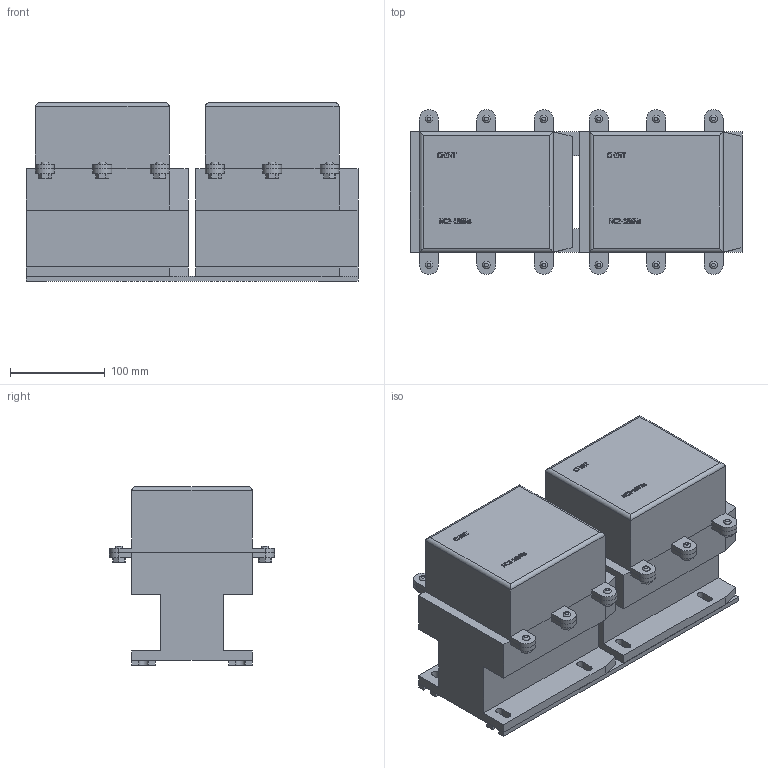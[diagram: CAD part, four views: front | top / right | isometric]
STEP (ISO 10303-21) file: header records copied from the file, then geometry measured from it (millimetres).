
FILE_DESCRIPTION(/* description */ (''),/* implementation_level */ '2;1');
FILE_NAME(/* name */ 'D:\CHINT2\NC2-N\NC2-185Ns 230В 50Гц (горизонтальная установка).stp',/* time_stamp */ '2017-11-12T21:05:33+03:00',/* author */ ('RSagdiev'),/* organization */ (''),/* preprocessor_version */ 'ST-DEVELOPER v16.5',/* originating_system */ 'Autodesk Inventor 2017',/* authorisation */ '');
FILE_SCHEMA (('AUTOMOTIVE_DESIGN { 1 0 10303 214 3 1 1 }'));
Length unit declared in the file: millimetre
Products named in the file (1): NC2-185Ns 230В 50Гц (\X2\0433043E044004380437
043E043D04420430043B044C043D0430044F\X0\ \X2\0443044104420430043D043E0432
043A0430\X0\)
Bounding box: 350 x 174 x 188.1 mm (x, y, z)
Volume: 6303462.1 mm3; surface area: 466377.5 mm2
Topology: 30 solids, 30 shells, 760 faces, 2016 edges, 1348 vertices
Faces by surface type: plane 510, bspline 198, cylinder 52
Entity records: 25248 total; most frequent: CARTESIAN_POINT 7449, ORIENTED_EDGE 4032, DIRECTION 2902, EDGE_CURVE 2016, LINE 1488, VECTOR 1488, VERTEX_POINT 1348, EDGE_LOOP 808
